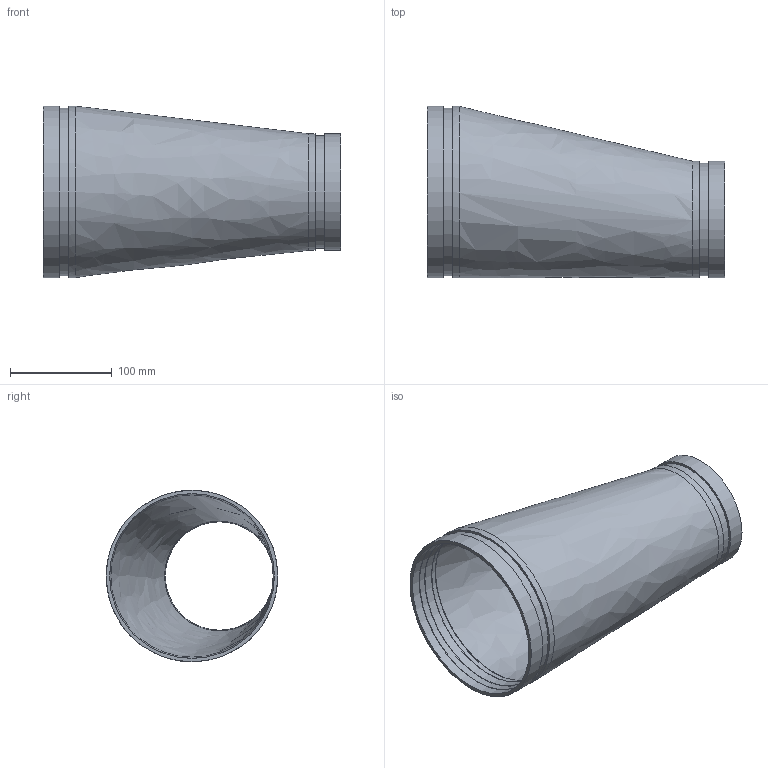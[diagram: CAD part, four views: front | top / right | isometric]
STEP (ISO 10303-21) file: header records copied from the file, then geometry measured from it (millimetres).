
FILE_DESCRIPTION(/* description */ ('VIC REDUCER ECCENTRIC No 451H-SS','CAx-IF Rec.Pracs.---Representation and Presentation of Product Manufacturing Information (PMI)---4.0---2014-10-13'),/* implementation_level */ '2;1');
FILE_NAME(/* name */ 'C:\Users\kkamble\AppData\Roaming\Autodesk\ApplicationPlugins\Back Up\Victaulic_SS-OGS_Reducer Eccentric_Sched 40S_No 451H SS (OGS)\Victaulic_SS-OGS_Reducer Eccentric_Sched 40S_No 451H SS (OGS)_06.0x04.0 (150x100).stp',/* time_stamp */ '2020-08-25T18:06:00+06:00',/* author */ ('CORINNE GRAY'),/* organization */ ('Victaulic'),/* preprocessor_version */ 'ST-DEVELOPER v17.2',/* originating_system */ 'Autodesk Inventor 2019',/* authorisation */ '');
FILE_SCHEMA (('AP242_MANAGED_MODEL_BASED_3D_ENGINEERING_MIM_LF { 1 0 10303 442 1 1 4 }'));
Length unit declared in the file: inch
Products named in the file (1): 451H SS-06.0x04.0
Bounding box: 292.1 x 168.28 x 168.28 mm (x, y, z)
Volume: 405075.6 mm3; surface area: 261697.5 mm2
Topology: 1 solids, 1 shells, 32 faces, 111 edges, 85 vertices
Faces by surface type: cylinder 12, torus 8, plane 6, cone 4, bspline 2
Full cylindrical faces by diameter (mm): 106.324 x1, 108.204 x2, 110.084 x1, 114.3 x2, 159.131 x1, 161.544 x2, 163.957 x1, 168.275 x2
Entity records: 1504 total; most frequent: DIRECTION 290, CARTESIAN_POINT 282, ORIENTED_EDGE 222, AXIS2_PLACEMENT_3D 137, EDGE_CURVE 111, CIRCLE 93, VERTEX_POINT 85, EDGE_LOOP 38
